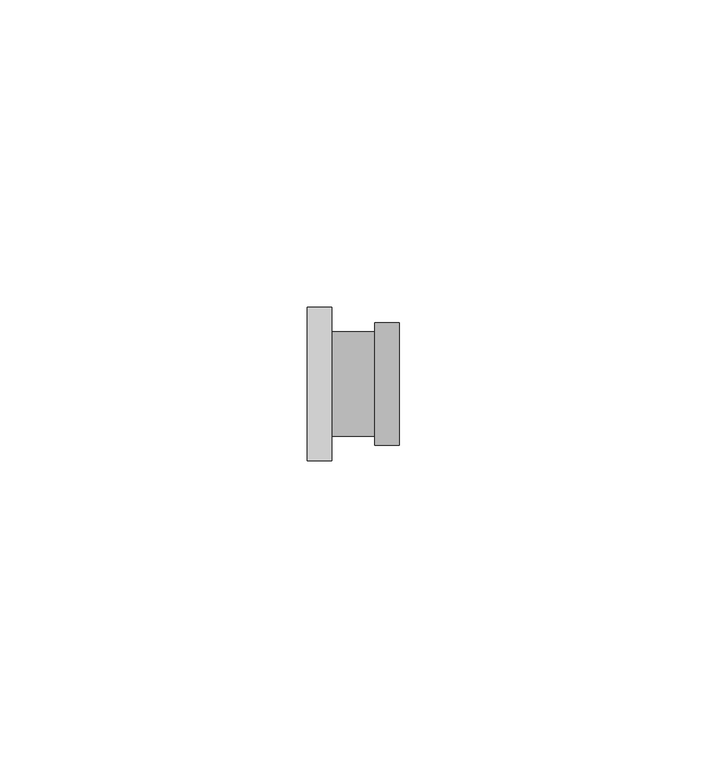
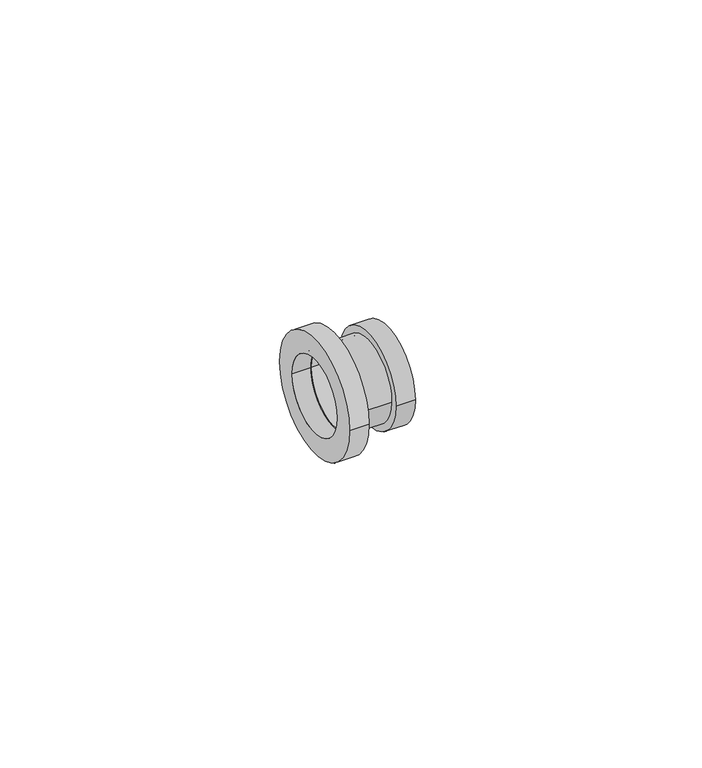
"""IFC4 building model written with IfcOpenShell, lengths in millimetres: pipe fitting geometry, БИР ПЕКС_НПР_Соединитель_Резьба_Внутренняя : Соединитель прямой с внутренней резьбой."""

from ifc_helpers import new_model, si_unit, point, frame, origin, origin_2d, place, context, project, spatial, circle_curve, trimmed, segment, composite_curve, outline, extrude, source, transform, mapped, element, save


def pipe_fitting_1b804304(model_context):
    return source(origin(), model_context, "Body", "SweptSolid", [
        extrude(outline(composite_curve([segment(trimmed(circle_curve(origin_2d(), 8.5), [point((-8.5, 0.0))], [point((8.5, 0.0))], False, "CARTESIAN"), True, "CONTINUOUS"), segment(trimmed(circle_curve(origin_2d(), 8.5), [point((8.5, 0.0))], [point((-8.5, 0.0))], False, "CARTESIAN"), True, "CONTINUOUS")], self_intersect=False), holes=[composite_curve([segment(trimmed(circle_curve(origin_2d(), 8.0), [point((-8.0, 0.0))], [point((8.0, 0.0))], True, "CARTESIAN"), True, "CONTINUOUS"), segment(trimmed(circle_curve(origin_2d(), 8.0), [point((8.0, 0.0))], [point((-8.0, 0.0))], True, "CARTESIAN"), True, "CONTINUOUS")], self_intersect=False)]), frame((-3.5, 0.0, 0.0), z_axis=(1.0, 0.0, 0.0), x_axis=(0.0, 1.0, 0.0)), (0.0, 0.0, 1.0), 7.0),
        extrude(outline(composite_curve([segment(trimmed(circle_curve(origin_2d(), 10.0), [point((-10.0, 0.0))], [point((10.0, 0.0))], False, "CARTESIAN"), True, "CONTINUOUS"), segment(trimmed(circle_curve(origin_2d(), 10.0), [point((10.0, 0.0))], [point((-10.0, 0.0))], False, "CARTESIAN"), True, "CONTINUOUS")], self_intersect=False), holes=[composite_curve([segment(trimmed(circle_curve(origin_2d(), 8.0), [point((-8.0, 0.0))], [point((8.0, 0.0))], True, "CARTESIAN"), True, "CONTINUOUS"), segment(trimmed(circle_curve(origin_2d(), 8.0), [point((8.0, 0.0))], [point((-8.0, 0.0))], True, "CARTESIAN"), True, "CONTINUOUS")], self_intersect=False)]), frame((3.5, 0.0, 0.0), z_axis=(1.0, 0.0, 0.0), x_axis=(0.0, 1.0, 0.0)), (0.0, 0.0, 1.0), 4.0),
        extrude(outline(composite_curve([segment(trimmed(circle_curve(origin_2d(), 12.5), [point((-12.5, 0.0))], [point((12.5, 0.0))], False, "CARTESIAN"), True, "CONTINUOUS"), segment(trimmed(circle_curve(origin_2d(), 12.5), [point((12.5, 0.0))], [point((-12.5, 0.0))], False, "CARTESIAN"), True, "CONTINUOUS")], self_intersect=False), holes=[composite_curve([segment(trimmed(circle_curve(origin_2d(), 8.0), [point((-8.0, 0.0))], [point((8.0, 0.0))], True, "CARTESIAN"), True, "CONTINUOUS"), segment(trimmed(circle_curve(origin_2d(), 8.0), [point((8.0, 0.0))], [point((-8.0, 0.0))], True, "CARTESIAN"), True, "CONTINUOUS")], self_intersect=False)]), frame((-7.5, 0.0, 0.0), z_axis=(1.0, 0.0, 0.0), x_axis=(0.0, 1.0, 0.0)), (0.0, 0.0, 1.0), 4.0),
    ])


if __name__ == "__main__":
    model = new_model("IFC4")
    model_context = context("Model", 3, world=origin())
    ifc_project = project(units=[si_unit("LENGTHUNIT", "METRE", prefix="MILLI")], contexts=[model_context])
    site = spatial("IfcSite", under=ifc_project)
    building = spatial("IfcBuilding", under=site)
    placement = place(None, origin())
    pipe_fitting_shape = pipe_fitting_1b804304(model_context)
    element("IfcPipeFitting", 1, ObjectType="БИР ПЕКС_НПР_Соединитель_Резьба_Внутренняя : Соединитель прямой с внутренней резьбой", at=placement, inside=building, context=model_context, shape_type="MappedRepresentation", body=[
        mapped(pipe_fitting_shape, transform((0.0, 0.0, 0.0), x_axis=(1.0, 0.0, 0.0), y_axis=(0.0, 1.0, 0.0), z_axis=(0.0, 0.0, 1.0))),
    ])
    save(model, "model.ifc")
